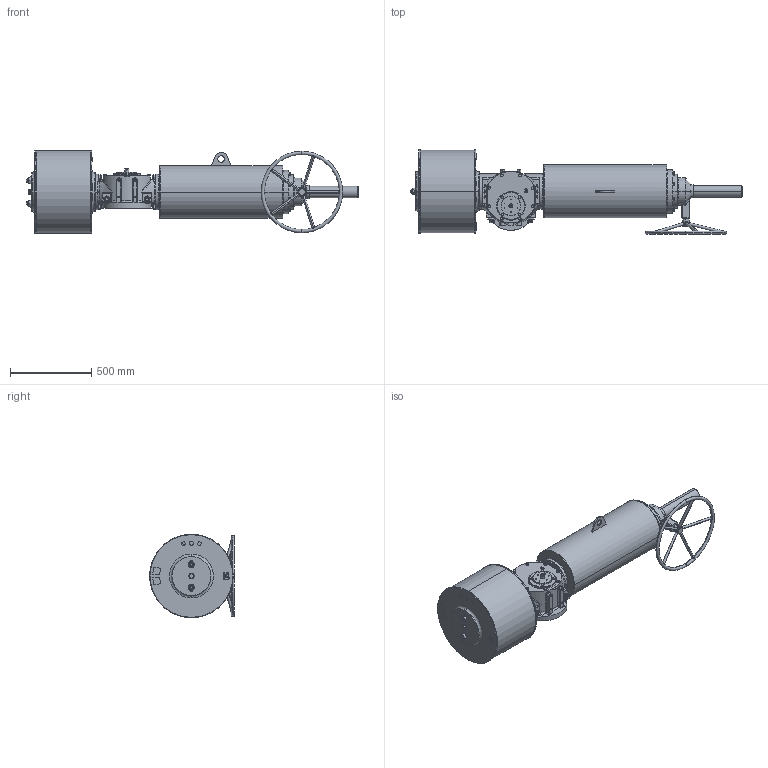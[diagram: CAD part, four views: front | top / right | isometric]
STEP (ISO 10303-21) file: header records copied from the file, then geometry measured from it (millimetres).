
FILE_DESCRIPTION (( 'STEP AP203' ), '1' );
FILE_NAME ('VTS3-500-SR-MG-FC.STEP', '2023-01-01T09:05:29', ( '' ), ( '' ), 'SwSTEP 2.0', 'SolidWorks 2020', '' );
FILE_SCHEMA (( 'CONFIG_CONTROL_DESIGN' ));
Length unit declared in the file: millimetre
Products named in the file (1): VTS3-500-SR-MG-FC
Bounding box: 2040.5 x 521 x 514 mm (x, y, z)
Volume: 161225046.4 mm3; surface area: 3393221.6 mm2
Topology: 49 solids, 50 shells, 2688 faces, 6714 edges, 4206 vertices
Faces by surface type: plane 1088, cylinder 852, cone 531, bspline 177, torus 40
Entity records: 102237 total; most frequent: CARTESIAN_POINT 39819, ORIENTED_EDGE 13202, DIRECTION 12869, EDGE_CURVE 6601, AXIS2_PLACEMENT_3D 5099, VERTEX_POINT 4206, EDGE_LOOP 2993, FACE_OUTER_BOUND 2688
